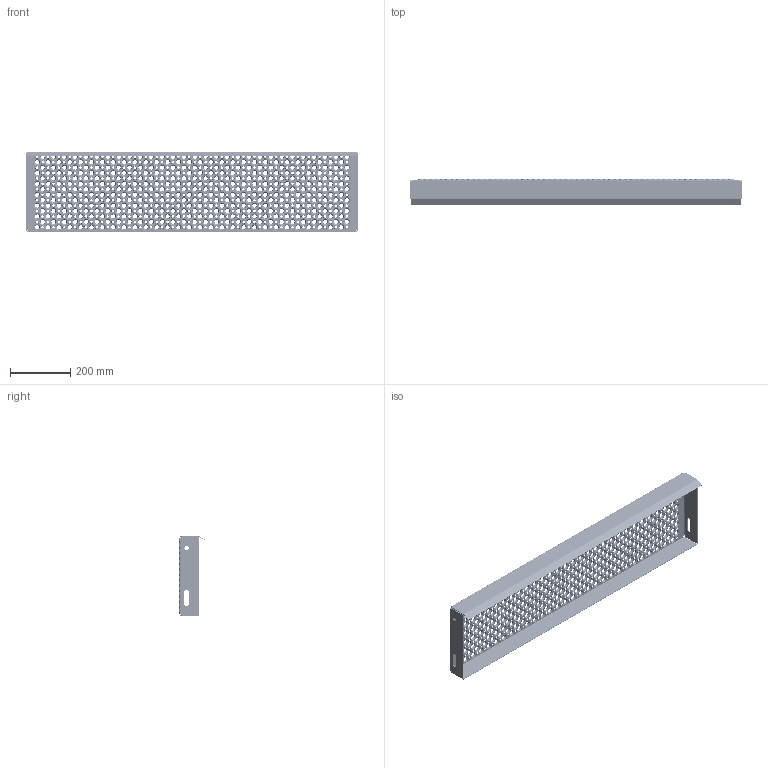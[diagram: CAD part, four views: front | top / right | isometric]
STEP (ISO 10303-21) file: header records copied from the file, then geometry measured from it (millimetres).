
FILE_DESCRIPTION (( 'STEP AP203' ), '1' );
FILE_NAME ('80242611G_Lejdertrin_265x1100x45_mm_.STEP', '2015-06-09T05:12:00', ( '' ), ( '' ), 'SwSTEP 2.0', 'SolidWorks 2013', '' );
FILE_SCHEMA (( 'CONFIG_CONTROL_DESIGN' ));
Length unit declared in the file: millimetre
Products named in the file (1): 80242611G_Lejdertrin_265x1100x45_mm_
Bounding box: 1100 x 88.17 x 265 mm (x, y, z)
Volume: 896929.3 mm3; surface area: 963028.6 mm2
Topology: 1 solids, 1 shells, 4136 faces, 11550 edges, 7416 vertices
Faces by surface type: cone 2436, torus 1624, cylinder 36, plane 32, bspline 8
Full cylindrical faces by diameter (mm): 14 x2
Entity records: 95225 total; most frequent: DIRECTION 18206, CARTESIAN_POINT 14669, ORIENTED_EDGE 10104, EDGE_LOOP 9830, AXIS2_PLACEMENT_3D 9057, FACE_OUTER_BOUND 5762, EDGE_CURVE 5052, VERTEX_POINT 4980
